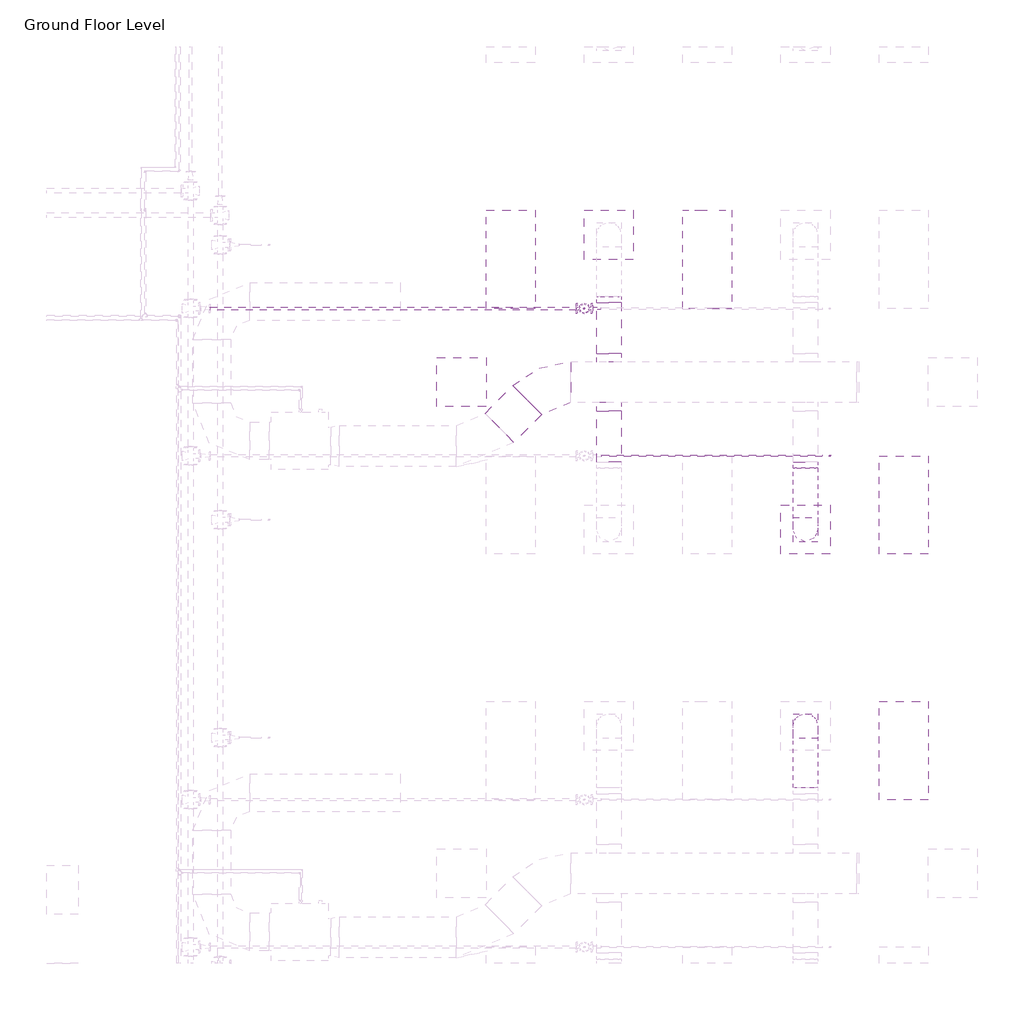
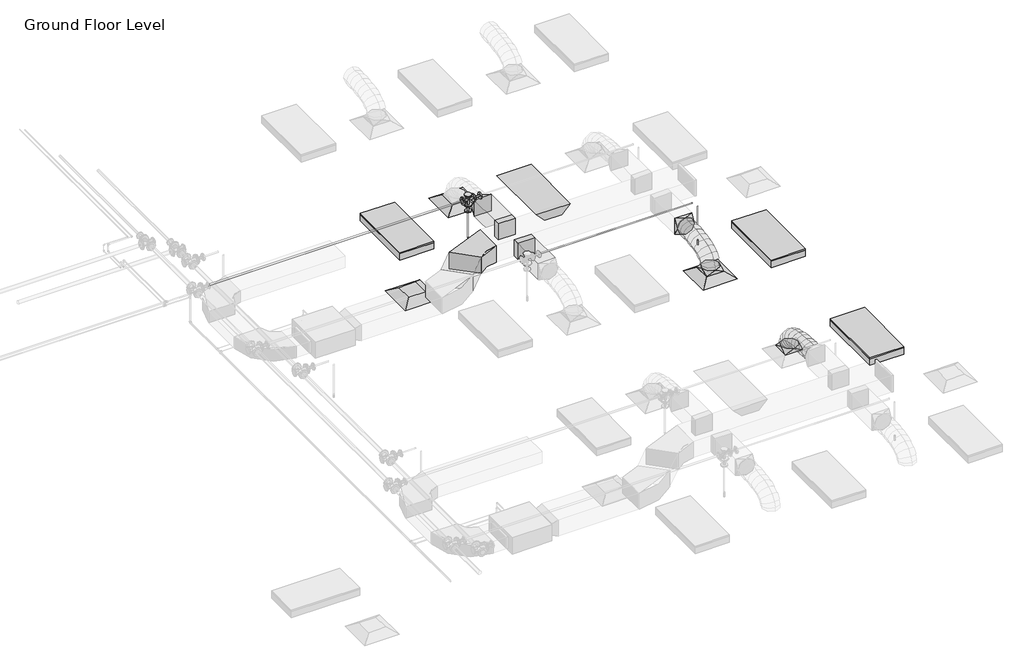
# One storey, part 68 of 72: 7 duct fittings, 5 duct segments, 4 light fixtures, 4 pipe segments, 3 air terminals, 3 pipe fittings, 2 fire suppression terminals.
"""IFC4 building model written with IfcOpenShell, lengths in millimetres."""

from ifc_helpers import new_model, si_unit, point, frame, frame_2d, origin, place, context, project, spatial, polyline, circle_curve, ellipse_curve, trimmed, segment, composite_curve, outline, extrude, transform, mapped, element, save
from ifc_brep_helpers import plane_surface, cylinder_surface, advanced_brep
from components import m_return_diffuser_600_x_600_face_300_x_300_connection_ff221211, m_rectangular_elbow_radius_1_5_w_acc56c25, m_rectangular_takeoff_standard_cb0ccb98, m_rectangular_takeoff_standard_2be5eba1, m_rectangular_to_round_transition_angle_45_degree_641efff0, m_sprinkler_dry_pendent_hosted_15_mm_dry_pendent_9bda8e11, m_emergency_recessed_lighting_fixture_600x1200_277_5b10b25d, m_troffer_light_parabolic_rectangular1_0600x1200mm_4_lamp_86473d4a, m_reducer_flanged_cs_class_150_standard_ccf252ad, m_tee_round_base_flanged_cs_class_150_standard_7e5987a1

model = new_model("IFC4")

# Units and contexts
model_context = context("Model", 3, world=origin())
ifc_project = project(units=[si_unit("LENGTHUNIT", "METRE", prefix="MILLI")], contexts=[model_context])

# Site, building, storey
site = spatial("IfcSite", under=ifc_project)
building = spatial("IfcBuilding", under=site)
storey = spatial("IfcBuildingStorey", under=building, Name="Ground Floor Level", Elevation=900.0)

# Air terminals
placement = place(None, origin())
m_return_diffuser_600_x_600_face_300_x_300_connection_shape = m_return_diffuser_600_x_600_face_300_x_300_connection_ff221211(model_context)
element("IfcAirTerminal", 1, ObjectType="M_Return Diffuser : 600 x 600 Face 300 x 300 Connection", at=placement, inside=storey, context=model_context, shape_type="MappedRepresentation", body=[
    mapped(m_return_diffuser_600_x_600_face_300_x_300_connection_shape, transform((8942.7672395, 12735.2153534, 3650.0), x_axis=(1.0, 0.0, 0.0), y_axis=(0.0, 1.0, 0.0), z_axis=(0.0, 0.0, 1.0))),
])
element("IfcAirTerminal", 2, ObjectType="M_Supply Diffuser : 600 x 600 Face 300 x 300 Connection", at=placement, inside=storey, context=model_context, shape_type="MappedRepresentation", body=[
    mapped(m_return_diffuser_600_x_600_face_300_x_300_connection_shape, transform((10742.7672395, 14535.2153534, 3650.0), x_axis=(1.0, 0.0, 0.0), y_axis=(0.0, 1.0, 0.0), z_axis=(0.0, 0.0, 1.0))),
])
element("IfcAirTerminal", 3, ObjectType="M_Supply Diffuser : 600 x 600 Face 300 x 300 Connection", at=placement, inside=storey, context=model_context, shape_type="MappedRepresentation", body=[
    mapped(m_return_diffuser_600_x_600_face_300_x_300_connection_shape, transform((13142.7672395, 10935.2153534, 3650.0), x_axis=(1.0, 0.0, 0.0), y_axis=(0.0, 1.0, 0.0), z_axis=(0.0, 0.0, 1.0))),
])

# Duct fittings
m_rectangular_elbow_radius_1_5_w_shape = m_rectangular_elbow_radius_1_5_w_acc56c25(model_context)
element("IfcDuctFitting", 4, ObjectType="M_Rectangular Elbow - Radius : 1.5 W", at=placement, inside=storey, context=model_context, shape_type="MappedRepresentation", body=[
    mapped(m_rectangular_elbow_radius_1_5_w_shape, transform((9966.7301365, 12735.2153534, 4100.0), x_axis=(-1.0, 0.0, 0.0), y_axis=(0.0, -0.9999999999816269, 6.061864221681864e-06), z_axis=(0.0, 6.061864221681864e-06, 0.9999999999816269))),
])
m_rectangular_takeoff_standard_shape = m_rectangular_takeoff_standard_cb0ccb98(model_context)
element("IfcDuctFitting", 5, ObjectType="M_Rectangular Takeoff : Standard", at=placement, inside=storey, context=model_context, shape_type="MappedRepresentation", body=[
    mapped(m_rectangular_takeoff_standard_shape, transform((10742.7672395, 12985.2153534, 4100.0), x_axis=(0.0, 1.0, 0.0), y_axis=(1.0, 0.0, 0.0), z_axis=(0.0, 0.0, -1.0))),
])
m_rectangular_takeoff_standard_2_shape = m_rectangular_takeoff_standard_2be5eba1(model_context)
element("IfcDuctFitting", 6, ObjectType="M_Rectangular Takeoff : Standard", at=placement, inside=storey, context=model_context, shape_type="MappedRepresentation", body=[
    mapped(m_rectangular_takeoff_standard_2_shape, transform((10742.7672395, 12485.2153534, 4100.0), x_axis=(0.0, -1.0, 0.0), y_axis=(-1.0, 0.0, 0.0), z_axis=(0.0, 0.0, -1.0))),
])
m_rectangular_to_round_transition_angle_45_degree_shape = m_rectangular_to_round_transition_angle_45_degree_641efff0(model_context)
element("IfcDuctFitting", 7, ObjectType="M_Rectangular to Round Transition - Angle : 45 Degree", at=placement, inside=storey, context=model_context, shape_type="MappedRepresentation", body=[
    mapped(m_rectangular_to_round_transition_angle_45_degree_shape, transform((13142.7672395, 8535.2153534, 3751.6), x_axis=(0.0, 0.0, 1.0), y_axis=(-1.0, 0.0, 0.0), z_axis=(0.0, -1.0, 0.0))),
])
element("IfcDuctFitting", 8, ObjectType="M_Rectangular to Round Transition - Angle : 45 Degree", at=placement, inside=storey, context=model_context, shape_type="MappedRepresentation", body=[
    mapped(m_rectangular_to_round_transition_angle_45_degree_shape, transform((10742.7672395, 13707.8794221, 4100.0), x_axis=(0.0, 1.0, 0.0), y_axis=(-1.0, 0.0, 0.0), z_axis=(0.0, 0.0, 1.0))),
])
element("IfcDuctFitting", 9, ObjectType="M_Rectangular to Round Transition - Angle : 45 Degree", at=placement, inside=storey, context=model_context, shape_type="MappedRepresentation", body=[
    mapped(m_rectangular_to_round_transition_angle_45_degree_shape, transform((13142.7672395, 10935.2153534, 3751.6), x_axis=(0.0, 0.0, 1.0), y_axis=(-1.0, 0.0, 0.0), z_axis=(0.0, -1.0, 0.0))),
])
element("IfcDuctFitting", 10, ObjectType="M_Rectangular to Round Transition - Angle : 45 Degree", at=placement, inside=storey, context=model_context, shape_type="MappedRepresentation", body=[
    mapped(m_rectangular_to_round_transition_angle_45_degree_shape, transform((13142.7672395, 11762.5512847, 4100.0), x_axis=(0.0, -1.0, 0.0), y_axis=(1.0, 0.0, 0.0), z_axis=(0.0, 0.0, 1.0))),
])

# Duct segments
element("IfcDuctSegment", 11, ObjectType="Flex - Round", at=placement, inside=storey, context=model_context, shape_type="AdvancedBrep", body=[
    advanced_brep(
    [(13292.7672395, 8535.2153534, 3826.6), (13142.7672395, 8385.2153534, 3826.6), (12992.7672395, 8535.2153534, 3826.6), (13142.7672395, 8685.2153534, 3826.6), (13292.7672395, 8535.2153534, 3857.9377114), (13142.7672395, 8385.2153534, 3832.2944892), (12992.7672395, 8535.2153534, 3857.9377114), (13142.7672395, 8685.2153534, 3883.5809337), (13292.7672395, 8518.1994208, 3906.2505728), (13142.7672395, 8384.4614419, 3834.435049), (12992.7672395, 8518.1994208, 3906.2505728), (13142.7672395, 8651.9373998, 3978.0660967), (13292.7672395, 8471.0155405, 3968.7113131), (13142.7672395, 8366.8096412, 3857.8020236), (12992.7672395, 8471.0155405, 3968.7113131), (13142.7672395, 8575.2214397, 4079.6206026), (13292.7672395, 8399.4595883, 4016.0700639), (13142.7672395, 8330.5255327, 3881.8163788), (12992.7672395, 8399.4595883, 4016.0700639), (13142.7672395, 8468.3936439, 4150.3237489), (13292.7672395, 8309.3274403, 4050.4146682), (13142.7672395, 8265.7666771, 3906.4925606), (12992.7672395, 8309.3274403, 4050.4146682), (13142.7672395, 8352.8882035, 4194.3367758), (13292.7672395, 8206.4149725, 4073.8329691), (13142.7672395, 8179.8540485, 3926.0424542), (12992.7672395, 8206.4149725, 4073.8329691), (13142.7672395, 8232.9758965, 4221.6234841), (13292.7672395, 8096.5180607, 4088.4128097), (13142.7672395, 8081.3671584, 3939.1085462), (12992.7672395, 8096.5180607, 4088.4128097), (13142.7672395, 8111.6689631, 4237.7170733), (13292.7672395, 7985.4325811, 4096.242033), (13142.7672395, 7977.9272529, 3946.398915), (12992.7672395, 7985.4325811, 4096.242033), (13142.7672395, 7992.9379093, 4246.085151), (13292.7672395, 7878.9544096, 4099.4084821), (13142.7672395, 7876.2629165, 3949.4222102), (12992.7672395, 7878.9544096, 4099.4084821), (13142.7672395, 7881.6459027, 4249.394754), (13292.7672395, 7782.8794221, 4100.0), (13142.7672395, 7783.8029299, 4249.9971571), (12992.7672395, 7782.8794221, 4100.0), (13142.7672395, 7781.9559143, 3950.0028429)],
    [
        (0, 1, circle_curve(frame((13142.7672395, 8535.2153534, 3826.6), z_axis=(0.0, 0.0, -1.0), x_axis=(1.0, 0.0, 0.0)), 150.0)),
        (1, 2, circle_curve(frame((13142.7672395, 8535.2153534, 3826.6), z_axis=(0.0, 0.0, -1.0), x_axis=(1.0, 0.0, 0.0)), 150.0)),
        (2, 3, circle_curve(frame((13142.7672395, 8535.2153534, 3826.6), z_axis=(0.0, 0.0, -1.0), x_axis=(1.0, 0.0, 0.0)), 150.0)),
        (3, 0, circle_curve(frame((13142.7672395, 8535.2153534, 3826.6), z_axis=(0.0, 0.0, -1.0), x_axis=(1.0, 0.0, 0.0)), 150.0)),
        (0, 4),
        (4, 5, ellipse_curve(frame((13142.7672395, 8535.2153534, 3857.9377114), z_axis=(0.0, 0.16851014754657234, -0.9856999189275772), x_axis=(0.0, -0.9856999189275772, -0.1685101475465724)), 152.176131, 150.0)),
        (5, 1),
        (5, 6, ellipse_curve(frame((13142.7672395, 8535.2153534, 3857.9377114), z_axis=(0.0, 0.16851014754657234, -0.9856999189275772), x_axis=(0.0, -0.9856999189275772, -0.1685101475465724)), 152.176131, 150.0)),
        (6, 2),
        (6, 7, ellipse_curve(frame((13142.7672395, 8535.2153534, 3857.9377114), z_axis=(0.0, 0.16851014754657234, -0.9856999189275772), x_axis=(0.0, -0.9856999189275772, -0.1685101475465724)), 152.176131, 150.0)),
        (7, 3),
        (7, 4, ellipse_curve(frame((13142.7672395, 8535.2153534, 3857.9377114), z_axis=(0.0, 0.16851014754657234, -0.9856999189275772), x_axis=(0.0, -0.9856999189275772, -0.1685101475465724)), 152.176131, 150.0)),
        (4, 8),
        (8, 9, ellipse_curve(frame((13142.7672395, 8518.1994208, 3906.2505728), z_axis=(0.0, 0.4730922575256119, -0.8810128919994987), x_axis=(0.0, -0.8810128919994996, -0.47309225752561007)), 151.8002519, 150.0)),
        (9, 5),
        (9, 10, ellipse_curve(frame((13142.7672395, 8518.1994208, 3906.2505728), z_axis=(0.0, 0.4730922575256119, -0.8810128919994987), x_axis=(0.0, -0.8810128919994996, -0.47309225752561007)), 151.8002519, 150.0)),
        (10, 6),
        (10, 11, ellipse_curve(frame((13142.7672395, 8518.1994208, 3906.2505728), z_axis=(0.0, 0.4730922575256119, -0.8810128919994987), x_axis=(0.0, -0.8810128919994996, -0.47309225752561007)), 151.8002519, 150.0)),
        (11, 7),
        (11, 8, ellipse_curve(frame((13142.7672395, 8518.1994208, 3906.2505728), z_axis=(0.0, 0.4730922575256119, -0.8810128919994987), x_axis=(0.0, -0.8810128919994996, -0.47309225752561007)), 151.8002519, 150.0)),
        (8, 12),
        (12, 13, ellipse_curve(frame((13142.7672395, 8471.0155405, 3968.7113131), z_axis=(0.0, 0.7287877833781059, -0.6847396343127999), x_axis=(0.0, -0.6847396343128, -0.7287877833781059)), 152.1832446, 150.0)),
        (13, 9),
        (13, 14, ellipse_curve(frame((13142.7672395, 8471.0155405, 3968.7113131), z_axis=(0.0, 0.7287877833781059, -0.6847396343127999), x_axis=(0.0, -0.6847396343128, -0.7287877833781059)), 152.1832446, 150.0)),
        (14, 10),
        (14, 15, ellipse_curve(frame((13142.7672395, 8471.0155405, 3968.7113131), z_axis=(0.0, 0.7287877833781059, -0.6847396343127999), x_axis=(0.0, -0.6847396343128, -0.7287877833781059)), 152.1832446, 150.0)),
        (15, 11),
        (15, 12, ellipse_curve(frame((13142.7672395, 8471.0155405, 3968.7113131), z_axis=(0.0, 0.7287877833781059, -0.6847396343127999), x_axis=(0.0, -0.6847396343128, -0.7287877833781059)), 152.1832446, 150.0)),
        (12, 16),
        (16, 17, ellipse_curve(frame((13142.7672395, 8399.4595883, 4016.0700639), z_axis=(0.0, 0.8895859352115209, -0.4567678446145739), x_axis=(0.0, -0.4567678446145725, -0.8895859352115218)), 150.91705, 150.0)),
        (17, 13),
        (17, 18, ellipse_curve(frame((13142.7672395, 8399.4595883, 4016.0700639), z_axis=(0.0, 0.8895859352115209, -0.4567678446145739), x_axis=(0.0, -0.4567678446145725, -0.8895859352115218)), 150.91705, 150.0)),
        (18, 14),
        (18, 19, ellipse_curve(frame((13142.7672395, 8399.4595883, 4016.0700639), z_axis=(0.0, 0.8895859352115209, -0.4567678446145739), x_axis=(0.0, -0.4567678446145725, -0.8895859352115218)), 150.91705, 150.0)),
        (19, 15),
        (19, 16, ellipse_curve(frame((13142.7672395, 8399.4595883, 4016.0700639), z_axis=(0.0, 0.8895859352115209, -0.4567678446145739), x_axis=(0.0, -0.4567678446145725, -0.8895859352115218)), 150.91705, 150.0)),
        (16, 20),
        (20, 21, ellipse_curve(frame((13142.7672395, 8309.3274403, 4050.4146682), z_axis=(0.0, 0.9571203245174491, -0.28969067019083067), x_axis=(0.0, -0.28969067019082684, -0.9571203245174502)), 150.369921, 150.0)),
        (21, 17),
        (21, 22, ellipse_curve(frame((13142.7672395, 8309.3274403, 4050.4146682), z_axis=(0.0, 0.9571203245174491, -0.28969067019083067), x_axis=(0.0, -0.28969067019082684, -0.9571203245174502)), 150.369921, 150.0)),
        (22, 18),
        (22, 23, ellipse_curve(frame((13142.7672395, 8309.3274403, 4050.4146682), z_axis=(0.0, 0.9571203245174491, -0.28969067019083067), x_axis=(0.0, -0.28969067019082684, -0.9571203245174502)), 150.369921, 150.0)),
        (23, 19),
        (23, 20, ellipse_curve(frame((13142.7672395, 8309.3274403, 4050.4146682), z_axis=(0.0, 0.9571203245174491, -0.28969067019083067), x_axis=(0.0, -0.28969067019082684, -0.9571203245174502)), 150.369921, 150.0)),
        (20, 24),
        (24, 25, ellipse_curve(frame((13142.7672395, 8206.4149725, 4073.8329691), z_axis=(0.0, 0.9842313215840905, -0.17688613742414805), x_axis=(0.0, -0.17688613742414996, -0.9842313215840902)), 150.1583131, 150.0)),
        (25, 21),
        (25, 26, ellipse_curve(frame((13142.7672395, 8206.4149725, 4073.8329691), z_axis=(0.0, 0.9842313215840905, -0.17688613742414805), x_axis=(0.0, -0.17688613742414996, -0.9842313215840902)), 150.1583131, 150.0)),
        (26, 22),
        (26, 27, ellipse_curve(frame((13142.7672395, 8206.4149725, 4073.8329691), z_axis=(0.0, 0.9842313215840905, -0.17688613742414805), x_axis=(0.0, -0.17688613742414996, -0.9842313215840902)), 150.1583131, 150.0)),
        (27, 23),
        (27, 24, ellipse_curve(frame((13142.7672395, 8206.4149725, 4073.8329691), z_axis=(0.0, 0.9842313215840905, -0.17688613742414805), x_axis=(0.0, -0.17688613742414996, -0.9842313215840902)), 150.1583131, 150.0)),
        (24, 28),
        (28, 29, ellipse_curve(frame((13142.7672395, 8096.5180607, 4088.4128097), z_axis=(0.0, 0.9948906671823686, -0.10095821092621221), x_axis=(0.0, -0.10095821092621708, -0.9948906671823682)), 150.0710264, 150.0)),
        (29, 25),
        (29, 30, ellipse_curve(frame((13142.7672395, 8096.5180607, 4088.4128097), z_axis=(0.0, 0.9948906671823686, -0.10095821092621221), x_axis=(0.0, -0.10095821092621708, -0.9948906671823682)), 150.0710264, 150.0)),
        (30, 26),
        (30, 31, ellipse_curve(frame((13142.7672395, 8096.5180607, 4088.4128097), z_axis=(0.0, 0.9948906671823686, -0.10095821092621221), x_axis=(0.0, -0.10095821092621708, -0.9948906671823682)), 150.0710264, 150.0)),
        (31, 27),
        (31, 28, ellipse_curve(frame((13142.7672395, 8096.5180607, 4088.4128097), z_axis=(0.0, 0.9948906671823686, -0.10095821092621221), x_axis=(0.0, -0.10095821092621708, -0.9948906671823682)), 150.0710264, 150.0)),
        (28, 32),
        (32, 33, ellipse_curve(frame((13142.7672395, 7985.4325811, 4096.242033), z_axis=(0.0, 0.9987479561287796, -0.05002519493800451), x_axis=(0.0, -0.050025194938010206, -0.9987479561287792)), 150.0309634, 150.0)),
        (33, 29),
        (33, 34, ellipse_curve(frame((13142.7672395, 7985.4325811, 4096.242033), z_axis=(0.0, 0.9987479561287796, -0.05002519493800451), x_axis=(0.0, -0.050025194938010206, -0.9987479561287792)), 150.0309634, 150.0)),
        (34, 30),
        (34, 35, ellipse_curve(frame((13142.7672395, 7985.4325811, 4096.242033), z_axis=(0.0, 0.9987479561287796, -0.05002519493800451), x_axis=(0.0, -0.050025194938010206, -0.9987479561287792)), 150.0309634, 150.0)),
        (35, 31),
        (35, 32, ellipse_curve(frame((13142.7672395, 7985.4325811, 4096.242033), z_axis=(0.0, 0.9987479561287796, -0.05002519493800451), x_axis=(0.0, -0.050025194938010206, -0.9987479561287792)), 150.0309634, 150.0)),
        (32, 36),
        (36, 37, ellipse_curve(frame((13142.7672395, 7878.9544096, 4099.4084821), z_axis=(0.0, 0.9998390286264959, -0.017942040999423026), x_axis=(0.0, -0.01794204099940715, -0.9998390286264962)), 150.0104193, 150.0)),
        (37, 33),
        (37, 38, ellipse_curve(frame((13142.7672395, 7878.9544096, 4099.4084821), z_axis=(0.0, 0.9998390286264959, -0.017942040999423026), x_axis=(0.0, -0.01794204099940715, -0.9998390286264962)), 150.0104193, 150.0)),
        (38, 34),
        (38, 39, ellipse_curve(frame((13142.7672395, 7878.9544096, 4099.4084821), z_axis=(0.0, 0.9998390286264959, -0.017942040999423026), x_axis=(0.0, -0.01794204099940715, -0.9998390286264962)), 150.0104193, 150.0)),
        (39, 35),
        (39, 36, ellipse_curve(frame((13142.7672395, 7878.9544096, 4099.4084821), z_axis=(0.0, 0.9998390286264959, -0.017942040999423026), x_axis=(0.0, -0.01794204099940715, -0.9998390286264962)), 150.0104193, 150.0)),
        (40, 41, circle_curve(frame((13142.7672395, 7782.8794221, 4100.0), z_axis=(0.0, -0.9999810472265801, 0.006156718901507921), x_axis=(1.0, 0.0, 0.0)), 150.0)),
        (41, 42, circle_curve(frame((13142.7672395, 7782.8794221, 4100.0), z_axis=(0.0, -0.9999810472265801, 0.006156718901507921), x_axis=(1.0, 0.0, 0.0)), 150.0)),
        (42, 43, circle_curve(frame((13142.7672395, 7782.8794221, 4100.0), z_axis=(0.0, -0.9999810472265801, 0.006156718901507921), x_axis=(1.0, 0.0, 0.0)), 150.0)),
        (43, 40, circle_curve(frame((13142.7672395, 7782.8794221, 4100.0), z_axis=(0.0, -0.9999810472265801, 0.006156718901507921), x_axis=(1.0, 0.0, 0.0)), 150.0)),
        (36, 40),
        (43, 37),
        (42, 38),
        (41, 39),
    ],
    [
        plane_surface(frame((13142.7672395, 8385.2153534, 3826.6), z_axis=(0.0, 0.0, -1.0), x_axis=(1.0, 0.0, 0.0))),
        cylinder_surface(frame((13142.7672395, 8535.2153534, 3826.6), z_axis=(0.0, 0.0, -1.0), x_axis=(1.0, 0.0, 0.0)), 150.0),
        cylinder_surface(frame((13142.7672395, 8535.2153534, 3857.9377114), z_axis=(0.0, 0.3322008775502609, -0.9432086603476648), x_axis=(1.0, 0.0, 0.0)), 150.0),
        cylinder_surface(frame((13142.7672395, 8518.1994208, 3906.2505728), z_axis=(0.0, 0.6027625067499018, -0.7979206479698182), x_axis=(1.0, 0.0, 0.0)), 150.0),
        cylinder_surface(frame((13142.7672395, 8471.0155405, 3968.7113131), z_axis=(0.0, 0.8339024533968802, -0.5519118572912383), x_axis=(1.0, 0.0, 0.0)), 150.0),
        cylinder_surface(frame((13142.7672395, 8399.4595883, 4016.0700639), z_axis=(0.0, 0.934458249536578, -0.35607271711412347), x_axis=(1.0, 0.0, 0.0)), 150.0),
        cylinder_surface(frame((13142.7672395, 8309.3274403, 4050.4146682), z_axis=(0.0, 0.9750732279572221, -0.22188330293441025), x_axis=(1.0, 0.0, 0.0)), 150.0),
        cylinder_surface(frame((13142.7672395, 8206.4149725, 4073.8329691), z_axis=(0.0, 0.9913140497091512, -0.1315159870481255), x_axis=(1.0, 0.0, 0.0)), 150.0),
        cylinder_surface(frame((13142.7672395, 8096.5180607, 4088.4128097), z_axis=(0.0, 0.9975255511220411, -0.07030487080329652), x_axis=(1.0, 0.0, 0.0)), 150.0),
        cylinder_surface(frame((13142.7672395, 7985.4325811, 4096.242033), z_axis=(0.0, 0.9995581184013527, -0.02972487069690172), x_axis=(1.0, 0.0, 0.0)), 150.0),
        plane_surface(frame((13142.7672395, 7781.9559143, 3950.0028429), z_axis=(0.0, -0.9999810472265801, 0.006156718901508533), x_axis=(1.0, 0.0, 0.0))),
        cylinder_surface(frame((13142.7672395, 7878.9544096, 4099.4084821), z_axis=(0.0, 0.9999810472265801, -0.006156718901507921), x_axis=(1.0, 0.0, 0.0)), 150.0),
    ],
    [
        (0, [[1, 2, 3, 4]]),
        (1, [[-1, 5, 6, 7]]),
        (1, [[-2, -7, 8, 9]]),
        (1, [[-3, -9, 10, 11]]),
        (1, [[-4, -11, 12, -5]]),
        (2, [[-6, 13, 14, 15]]),
        (2, [[-8, -15, 16, 17]]),
        (2, [[-10, -17, 18, 19]]),
        (2, [[-12, -19, 20, -13]]),
        (3, [[-14, 21, 22, 23]]),
        (3, [[-16, -23, 24, 25]]),
        (3, [[-18, -25, 26, 27]]),
        (3, [[-20, -27, 28, -21]]),
        (4, [[-22, 29, 30, 31]]),
        (4, [[-24, -31, 32, 33]]),
        (4, [[-26, -33, 34, 35]]),
        (4, [[-28, -35, 36, -29]]),
        (5, [[-30, 37, 38, 39]]),
        (5, [[-32, -39, 40, 41]]),
        (5, [[-34, -41, 42, 43]]),
        (5, [[-36, -43, 44, -37]]),
        (6, [[-38, 45, 46, 47]]),
        (6, [[-40, -47, 48, 49]]),
        (6, [[-42, -49, 50, 51]]),
        (6, [[-44, -51, 52, -45]]),
        (7, [[-46, 53, 54, 55]]),
        (7, [[-48, -55, 56, 57]]),
        (7, [[-50, -57, 58, 59]]),
        (7, [[-52, -59, 60, -53]]),
        (8, [[-54, 61, 62, 63]]),
        (8, [[-56, -63, 64, 65]]),
        (8, [[-58, -65, 66, 67]]),
        (8, [[-60, -67, 68, -61]]),
        (9, [[-62, 69, 70, 71]]),
        (9, [[-64, -71, 72, 73]]),
        (9, [[-66, -73, 74, 75]]),
        (9, [[-68, -75, 76, -69]]),
        (10, [[77, 78, 79, 80]]),
        (11, [[-70, 81, -80, 82]]),
        (11, [[-72, -82, -79, 83]]),
        (11, [[-74, -83, -78, 84]]),
        (11, [[-76, -84, -77, -81]]),
    ],
),
])
element("IfcDuctSegment", 12, ObjectType="Flex - Round", at=placement, inside=storey, context=model_context, shape_type="AdvancedBrep", body=[
    advanced_brep(
    [(13292.7672395, 10935.2153534, 3826.6), (13142.7672395, 10785.2153534, 3826.6), (12992.7672395, 10935.2153534, 3826.6), (13142.7672395, 11085.2153534, 3826.6), (13292.7672395, 10935.2153534, 3857.9377114), (13142.7672395, 10785.2153534, 3883.5809337), (12992.7672395, 10935.2153534, 3857.9377114), (13142.7672395, 11085.2153534, 3832.2944892), (13292.7672395, 10952.2312859, 3906.2505728), (13142.7672395, 10818.493307, 3978.0660967), (12992.7672395, 10952.2312859, 3906.2505728), (13142.7672395, 11085.9692649, 3834.435049), (13292.7672395, 10999.4151663, 3968.7113131), (13142.7672395, 10895.209267, 4079.6206026), (12992.7672395, 10999.4151663, 3968.7113131), (13142.7672395, 11103.6210655, 3857.8020236), (13292.7672395, 11070.9711184, 4016.0700639), (13142.7672395, 11002.0370628, 4150.3237489), (12992.7672395, 11070.9711184, 4016.0700639), (13142.7672395, 11139.9051741, 3881.8163788), (13292.7672395, 11161.1032664, 4050.4146682), (13142.7672395, 11117.5425033, 4194.3367758), (12992.7672395, 11161.1032664, 4050.4146682), (13142.7672395, 11204.6640296, 3906.4925606), (13292.7672395, 11264.0157343, 4073.8329691), (13142.7672395, 11237.4548103, 4221.6234841), (12992.7672395, 11264.0157343, 4073.8329691), (13142.7672395, 11290.5766583, 3926.0424542), (13292.7672395, 11373.912646, 4088.4128097), (13142.7672395, 11358.7617437, 4237.7170733), (12992.7672395, 11373.912646, 4088.4128097), (13142.7672395, 11389.0635483, 3939.1085462), (13292.7672395, 11484.9981256, 4096.242033), (13142.7672395, 11477.4927975, 4246.085151), (12992.7672395, 11484.9981256, 4096.242033), (13142.7672395, 11492.5034538, 3946.398915), (13292.7672395, 11591.4762972, 4099.4084821), (13142.7672395, 11588.7848041, 4249.394754), (12992.7672395, 11591.4762972, 4099.4084821), (13142.7672395, 11594.1677903, 3949.4222102), (13292.7672395, 11687.5512847, 4100.0), (13142.7672395, 11688.4747925, 3950.0028429), (12992.7672395, 11687.5512847, 4100.0), (13142.7672395, 11686.6277768, 4249.9971571)],
    [
        (0, 1, circle_curve(frame((13142.7672395, 10935.2153534, 3826.6), z_axis=(0.0, 0.0, -1.0), x_axis=(1.0, 0.0, 0.0)), 150.0)),
        (1, 2, circle_curve(frame((13142.7672395, 10935.2153534, 3826.6), z_axis=(0.0, 0.0, -1.0), x_axis=(1.0, 0.0, 0.0)), 150.0)),
        (2, 3, circle_curve(frame((13142.7672395, 10935.2153534, 3826.6), z_axis=(0.0, 0.0, -1.0), x_axis=(1.0, 0.0, 0.0)), 150.0)),
        (3, 0, circle_curve(frame((13142.7672395, 10935.2153534, 3826.6), z_axis=(0.0, 0.0, -1.0), x_axis=(1.0, 0.0, 0.0)), 150.0)),
        (0, 4),
        (4, 5, ellipse_curve(frame((13142.7672395, 10935.2153534, 3857.9377114), z_axis=(0.0, -0.16851014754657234, -0.9856999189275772), x_axis=(0.0, 0.9856999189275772, -0.1685101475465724)), 152.176131, 150.0)),
        (5, 1),
        (5, 6, ellipse_curve(frame((13142.7672395, 10935.2153534, 3857.9377114), z_axis=(0.0, -0.16851014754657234, -0.9856999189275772), x_axis=(0.0, 0.9856999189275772, -0.1685101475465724)), 152.176131, 150.0)),
        (6, 2),
        (6, 7, ellipse_curve(frame((13142.7672395, 10935.2153534, 3857.9377114), z_axis=(0.0, -0.16851014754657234, -0.9856999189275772), x_axis=(0.0, 0.9856999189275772, -0.1685101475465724)), 152.176131, 150.0)),
        (7, 3),
        (7, 4, ellipse_curve(frame((13142.7672395, 10935.2153534, 3857.9377114), z_axis=(0.0, -0.16851014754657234, -0.9856999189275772), x_axis=(0.0, 0.9856999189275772, -0.1685101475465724)), 152.176131, 150.0)),
        (4, 8),
        (8, 9, ellipse_curve(frame((13142.7672395, 10952.2312859, 3906.2505728), z_axis=(0.0, -0.47309225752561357, -0.8810128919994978), x_axis=(0.0, 0.8810128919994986, -0.47309225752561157)), 151.8002519, 150.0)),
        (9, 5),
        (9, 10, ellipse_curve(frame((13142.7672395, 10952.2312859, 3906.2505728), z_axis=(0.0, -0.47309225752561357, -0.8810128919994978), x_axis=(0.0, 0.8810128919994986, -0.47309225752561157)), 151.8002519, 150.0)),
        (10, 6),
        (10, 11, ellipse_curve(frame((13142.7672395, 10952.2312859, 3906.2505728), z_axis=(0.0, -0.47309225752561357, -0.8810128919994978), x_axis=(0.0, 0.8810128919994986, -0.47309225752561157)), 151.8002519, 150.0)),
        (11, 7),
        (11, 8, ellipse_curve(frame((13142.7672395, 10952.2312859, 3906.2505728), z_axis=(0.0, -0.47309225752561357, -0.8810128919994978), x_axis=(0.0, 0.8810128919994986, -0.47309225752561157)), 151.8002519, 150.0)),
        (8, 12),
        (12, 13, ellipse_curve(frame((13142.7672395, 10999.4151663, 3968.7113131), z_axis=(0.0, -0.7287877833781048, -0.6847396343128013), x_axis=(0.0, 0.6847396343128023, -0.7287877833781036)), 152.1832446, 150.0)),
        (13, 9),
        (13, 14, ellipse_curve(frame((13142.7672395, 10999.4151663, 3968.7113131), z_axis=(0.0, -0.7287877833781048, -0.6847396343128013), x_axis=(0.0, 0.6847396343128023, -0.7287877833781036)), 152.1832446, 150.0)),
        (14, 10),
        (14, 15, ellipse_curve(frame((13142.7672395, 10999.4151663, 3968.7113131), z_axis=(0.0, -0.7287877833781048, -0.6847396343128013), x_axis=(0.0, 0.6847396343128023, -0.7287877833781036)), 152.1832446, 150.0)),
        (15, 11),
        (15, 12, ellipse_curve(frame((13142.7672395, 10999.4151663, 3968.7113131), z_axis=(0.0, -0.7287877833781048, -0.6847396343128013), x_axis=(0.0, 0.6847396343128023, -0.7287877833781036)), 152.1832446, 150.0)),
        (12, 16),
        (16, 17, ellipse_curve(frame((13142.7672395, 11070.9711184, 4016.0700639), z_axis=(0.0, -0.8895859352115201, -0.45676784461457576), x_axis=(0.0, 0.45676784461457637, -0.8895859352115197)), 150.91705, 150.0)),
        (17, 13),
        (17, 18, ellipse_curve(frame((13142.7672395, 11070.9711184, 4016.0700639), z_axis=(0.0, -0.8895859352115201, -0.45676784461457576), x_axis=(0.0, 0.45676784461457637, -0.8895859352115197)), 150.91705, 150.0)),
        (18, 14),
        (18, 19, ellipse_curve(frame((13142.7672395, 11070.9711184, 4016.0700639), z_axis=(0.0, -0.8895859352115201, -0.45676784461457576), x_axis=(0.0, 0.45676784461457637, -0.8895859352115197)), 150.91705, 150.0)),
        (19, 15),
        (19, 16, ellipse_curve(frame((13142.7672395, 11070.9711184, 4016.0700639), z_axis=(0.0, -0.8895859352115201, -0.45676784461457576), x_axis=(0.0, 0.45676784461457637, -0.8895859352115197)), 150.91705, 150.0)),
        (16, 20),
        (20, 21, ellipse_curve(frame((13142.7672395, 11161.1032664, 4050.4146682), z_axis=(0.0, -0.9571203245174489, -0.2896906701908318), x_axis=(0.0, 0.28969067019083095, -0.9571203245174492)), 150.369921, 150.0)),
        (21, 17),
        (21, 22, ellipse_curve(frame((13142.7672395, 11161.1032664, 4050.4146682), z_axis=(0.0, -0.9571203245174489, -0.2896906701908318), x_axis=(0.0, 0.28969067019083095, -0.9571203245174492)), 150.369921, 150.0)),
        (22, 18),
        (22, 23, ellipse_curve(frame((13142.7672395, 11161.1032664, 4050.4146682), z_axis=(0.0, -0.9571203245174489, -0.2896906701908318), x_axis=(0.0, 0.28969067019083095, -0.9571203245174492)), 150.369921, 150.0)),
        (23, 19),
        (23, 20, ellipse_curve(frame((13142.7672395, 11161.1032664, 4050.4146682), z_axis=(0.0, -0.9571203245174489, -0.2896906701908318), x_axis=(0.0, 0.28969067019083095, -0.9571203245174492)), 150.369921, 150.0)),
        (20, 24),
        (24, 25, ellipse_curve(frame((13142.7672395, 11264.0157343, 4073.8329691), z_axis=(0.0, -0.9842313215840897, -0.17688613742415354), x_axis=(0.0, 0.1768861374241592, -0.9842313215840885)), 150.1583131, 150.0)),
        (25, 21),
        (25, 26, ellipse_curve(frame((13142.7672395, 11264.0157343, 4073.8329691), z_axis=(0.0, -0.9842313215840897, -0.17688613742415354), x_axis=(0.0, 0.1768861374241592, -0.9842313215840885)), 150.1583131, 150.0)),
        (26, 22),
        (26, 27, ellipse_curve(frame((13142.7672395, 11264.0157343, 4073.8329691), z_axis=(0.0, -0.9842313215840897, -0.17688613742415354), x_axis=(0.0, 0.1768861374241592, -0.9842313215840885)), 150.1583131, 150.0)),
        (27, 23),
        (27, 24, ellipse_curve(frame((13142.7672395, 11264.0157343, 4073.8329691), z_axis=(0.0, -0.9842313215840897, -0.17688613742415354), x_axis=(0.0, 0.1768861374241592, -0.9842313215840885)), 150.1583131, 150.0)),
        (24, 28),
        (28, 29, ellipse_curve(frame((13142.7672395, 11373.912646, 4088.4128097), z_axis=(0.0, -0.9948906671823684, -0.10095821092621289), x_axis=(0.0, 0.10095821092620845, -0.9948906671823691)), 150.0710264, 150.0)),
        (29, 25),
        (29, 30, ellipse_curve(frame((13142.7672395, 11373.912646, 4088.4128097), z_axis=(0.0, -0.9948906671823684, -0.10095821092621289), x_axis=(0.0, 0.10095821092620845, -0.9948906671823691)), 150.0710264, 150.0)),
        (30, 26),
        (30, 31, ellipse_curve(frame((13142.7672395, 11373.912646, 4088.4128097), z_axis=(0.0, -0.9948906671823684, -0.10095821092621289), x_axis=(0.0, 0.10095821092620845, -0.9948906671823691)), 150.0710264, 150.0)),
        (31, 27),
        (31, 28, ellipse_curve(frame((13142.7672395, 11373.912646, 4088.4128097), z_axis=(0.0, -0.9948906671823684, -0.10095821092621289), x_axis=(0.0, 0.10095821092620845, -0.9948906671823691)), 150.0710264, 150.0)),
        (28, 32),
        (32, 33, ellipse_curve(frame((13142.7672395, 11484.9981256, 4096.242033), z_axis=(0.0, -0.9987479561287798, -0.050025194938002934), x_axis=(0.0, 0.05002519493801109, -0.9987479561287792)), 150.0309634, 150.0)),
        (33, 29),
        (33, 34, ellipse_curve(frame((13142.7672395, 11484.9981256, 4096.242033), z_axis=(0.0, -0.9987479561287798, -0.050025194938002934), x_axis=(0.0, 0.05002519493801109, -0.9987479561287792)), 150.0309634, 150.0)),
        (34, 30),
        (34, 35, ellipse_curve(frame((13142.7672395, 11484.9981256, 4096.242033), z_axis=(0.0, -0.9987479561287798, -0.050025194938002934), x_axis=(0.0, 0.05002519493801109, -0.9987479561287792)), 150.0309634, 150.0)),
        (35, 31),
        (35, 32, ellipse_curve(frame((13142.7672395, 11484.9981256, 4096.242033), z_axis=(0.0, -0.9987479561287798, -0.050025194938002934), x_axis=(0.0, 0.05002519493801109, -0.9987479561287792)), 150.0309634, 150.0)),
        (32, 36),
        (36, 37, ellipse_curve(frame((13142.7672395, 11591.4762972, 4099.4084821), z_axis=(0.0, -0.9998390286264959, -0.017942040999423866), x_axis=(0.0, 0.017942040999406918, -0.9998390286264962)), 150.0104193, 150.0)),
        (37, 33),
        (37, 38, ellipse_curve(frame((13142.7672395, 11591.4762972, 4099.4084821), z_axis=(0.0, -0.9998390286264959, -0.017942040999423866), x_axis=(0.0, 0.017942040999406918, -0.9998390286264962)), 150.0104193, 150.0)),
        (38, 34),
        (38, 39, ellipse_curve(frame((13142.7672395, 11591.4762972, 4099.4084821), z_axis=(0.0, -0.9998390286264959, -0.017942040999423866), x_axis=(0.0, 0.017942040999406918, -0.9998390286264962)), 150.0104193, 150.0)),
        (39, 35),
        (39, 36, ellipse_curve(frame((13142.7672395, 11591.4762972, 4099.4084821), z_axis=(0.0, -0.9998390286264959, -0.017942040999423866), x_axis=(0.0, 0.017942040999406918, -0.9998390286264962)), 150.0104193, 150.0)),
        (40, 41, circle_curve(frame((13142.7672395, 11687.5512847, 4100.0), z_axis=(0.0, 0.9999810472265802, 0.006156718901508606), x_axis=(1.0, 0.0, 0.0)), 150.0)),
        (41, 42, circle_curve(frame((13142.7672395, 11687.5512847, 4100.0), z_axis=(0.0, 0.9999810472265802, 0.006156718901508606), x_axis=(1.0, 0.0, 0.0)), 150.0)),
        (42, 43, circle_curve(frame((13142.7672395, 11687.5512847, 4100.0), z_axis=(0.0, 0.9999810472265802, 0.006156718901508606), x_axis=(1.0, 0.0, 0.0)), 150.0)),
        (43, 40, circle_curve(frame((13142.7672395, 11687.5512847, 4100.0), z_axis=(0.0, 0.9999810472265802, 0.006156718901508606), x_axis=(1.0, 0.0, 0.0)), 150.0)),
        (36, 40),
        (43, 37),
        (42, 38),
        (41, 39),
    ],
    [
        plane_surface(frame((13142.7672395, 10785.2153534, 3826.6), z_axis=(0.0, 0.0, -1.0), x_axis=(1.0, 0.0, 0.0))),
        cylinder_surface(frame((13142.7672395, 10935.2153534, 3826.6), z_axis=(0.0, 0.0, -1.0), x_axis=(1.0, 0.0, 0.0)), 150.0),
        cylinder_surface(frame((13142.7672395, 10935.2153534, 3857.9377114), z_axis=(0.0, -0.3322008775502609, -0.9432086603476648), x_axis=(1.0, 0.0, 0.0)), 150.0),
        cylinder_surface(frame((13142.7672395, 10952.2312859, 3906.2505728), z_axis=(0.0, -0.6027625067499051, -0.7979206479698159), x_axis=(1.0, 0.0, 0.0)), 150.0),
        cylinder_surface(frame((13142.7672395, 10999.4151663, 3968.7113131), z_axis=(0.0, -0.833902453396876, -0.5519118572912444), x_axis=(1.0, 0.0, 0.0)), 150.0),
        cylinder_surface(frame((13142.7672395, 11070.9711184, 4016.0700639), z_axis=(0.0, -0.9344582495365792, -0.35607271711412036), x_axis=(1.0, 0.0, 0.0)), 150.0),
        cylinder_surface(frame((13142.7672395, 11161.1032664, 4050.4146682), z_axis=(0.0, -0.9750732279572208, -0.22188330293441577), x_axis=(1.0, 0.0, 0.0)), 150.0),
        cylinder_surface(frame((13142.7672395, 11264.0157343, 4073.8329691), z_axis=(0.0, -0.9913140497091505, -0.131515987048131), x_axis=(1.0, 0.0, 0.0)), 150.0),
        cylinder_surface(frame((13142.7672395, 11373.912646, 4088.4128097), z_axis=(0.0, -0.9975255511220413, -0.07030487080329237), x_axis=(1.0, 0.0, 0.0)), 150.0),
        cylinder_surface(frame((13142.7672395, 11484.9981256, 4096.242033), z_axis=(0.0, -0.9995581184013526, -0.029724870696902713), x_axis=(1.0, 0.0, 0.0)), 150.0),
        plane_surface(frame((13142.7672395, 11686.6277768, 4249.9971571), z_axis=(0.0, 0.9999810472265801, 0.0061567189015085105), x_axis=(1.0, 0.0, 0.0))),
        cylinder_surface(frame((13142.7672395, 11591.4762972, 4099.4084821), z_axis=(0.0, -0.9999810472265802, -0.006156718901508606), x_axis=(1.0, 0.0, 0.0)), 150.0),
    ],
    [
        (0, [[1, 2, 3, 4]]),
        (1, [[-1, 5, 6, 7]]),
        (1, [[-2, -7, 8, 9]]),
        (1, [[-3, -9, 10, 11]]),
        (1, [[-4, -11, 12, -5]]),
        (2, [[-6, 13, 14, 15]]),
        (2, [[-8, -15, 16, 17]]),
        (2, [[-10, -17, 18, 19]]),
        (2, [[-12, -19, 20, -13]]),
        (3, [[-14, 21, 22, 23]]),
        (3, [[-16, -23, 24, 25]]),
        (3, [[-18, -25, 26, 27]]),
        (3, [[-20, -27, 28, -21]]),
        (4, [[-22, 29, 30, 31]]),
        (4, [[-24, -31, 32, 33]]),
        (4, [[-26, -33, 34, 35]]),
        (4, [[-28, -35, 36, -29]]),
        (5, [[-30, 37, 38, 39]]),
        (5, [[-32, -39, 40, 41]]),
        (5, [[-34, -41, 42, 43]]),
        (5, [[-36, -43, 44, -37]]),
        (6, [[-38, 45, 46, 47]]),
        (6, [[-40, -47, 48, 49]]),
        (6, [[-42, -49, 50, 51]]),
        (6, [[-44, -51, 52, -45]]),
        (7, [[-46, 53, 54, 55]]),
        (7, [[-48, -55, 56, 57]]),
        (7, [[-50, -57, 58, 59]]),
        (7, [[-52, -59, 60, -53]]),
        (8, [[-54, 61, 62, 63]]),
        (8, [[-56, -63, 64, 65]]),
        (8, [[-58, -65, 66, 67]]),
        (8, [[-60, -67, 68, -61]]),
        (9, [[-62, 69, 70, 71]]),
        (9, [[-64, -71, 72, 73]]),
        (9, [[-66, -73, 74, 75]]),
        (9, [[-68, -75, 76, -69]]),
        (10, [[77, 78, 79, 80]]),
        (11, [[-70, 81, -80, 82]]),
        (11, [[-72, -82, -79, 83]]),
        (11, [[-74, -83, -78, 84]]),
        (11, [[-76, -84, -77, -81]]),
    ],
),
])
element("IfcDuctSegment", 13, ObjectType="Radius Elbows / Taps", at=placement, inside=storey, context=model_context, shape_type="SweptSolid", body=[
    extrude(outline(polyline([(9584.1393452, 11999.0711715), (9230.5859546, 12352.6245621), (9570.2835271, 12692.3221346), (9923.8369177, 12338.768744), (9584.1393452, 11999.0711715)])), frame((0.0, 0.0, 3950.0033908), z_axis=(0.0, 0.0, 1.0), x_axis=(1.0, 0.0, 0.0)), (0.0, 0.0, 1.0), 300.0),
])
element("IfcDuctSegment", 14, ObjectType="Radius Elbows / Taps", at=placement, inside=storey, context=model_context, shape_type="SweptSolid", body=[
    extrude(outline(polyline([(10892.7672395, 13086.8153534), (10592.7672395, 13086.8153534), (10592.7672395, 13707.8794221), (10892.7672395, 13707.8794221), (10892.7672395, 13086.8153534)])), frame((0.0, 0.0, 3950.0), z_axis=(0.0, 0.0, 1.0), x_axis=(1.0, 0.0, 0.0)), (0.0, 0.0, 1.0), 300.0),
])
element("IfcDuctSegment", 15, ObjectType="Radius Elbows / Taps", at=placement, inside=storey, context=model_context, shape_type="SweptSolid", body=[
    extrude(outline(polyline([(10592.7672395, 12383.6153534), (10892.7672395, 12383.6153534), (10892.7672395, 11762.5512847), (10592.7672395, 11762.5512847), (10592.7672395, 12383.6153534)])), frame((0.0, 0.0, 3950.0), z_axis=(0.0, 0.0, 1.0), x_axis=(1.0, 0.0, 0.0)), (0.0, 0.0, 1.0), 300.0),
])

# Fire suppression terminals
m_sprinkler_dry_pendent_hosted_15_mm_dry_pendent_shape = m_sprinkler_dry_pendent_hosted_15_mm_dry_pendent_9bda8e11(model_context)
element("IfcFireSuppressionTerminal", 16, ObjectType="M_Sprinkler - Dry - Pendent - Hosted : 15 mm Dry Pendent", at=placement, inside=storey, context=model_context, shape_type="MappedRepresentation", body=[
    mapped(m_sprinkler_dry_pendent_hosted_15_mm_dry_pendent_shape, transform((10442.7672395, 13635.2153534, 3650.0), x_axis=(1.0, 0.0, 0.0), y_axis=(0.0, -1.0, 0.0), z_axis=(0.0, 0.0, -1.0))),
])
element("IfcFireSuppressionTerminal", 17, ObjectType="M_Sprinkler - Dry - Pendent - Hosted : 15 mm Dry Pendent", at=placement, inside=storey, context=model_context, shape_type="MappedRepresentation", body=[
    mapped(m_sprinkler_dry_pendent_hosted_15_mm_dry_pendent_shape, transform((13442.7672395, 11835.2153534, 3650.0), x_axis=(1.0, 0.0, 0.0), y_axis=(0.0, -1.0, 0.0), z_axis=(0.0, 0.0, -1.0))),
])

# Light fixtures
m_emergency_recessed_lighting_fixture_600x1200_277_shape = m_emergency_recessed_lighting_fixture_600x1200_277_5b10b25d(model_context)
element("IfcLightFixture", 18, ObjectType="M_Emergency Recessed Lighting Fixture : 600x1200 - 277", at=placement, inside=storey, context=model_context, shape_type="MappedRepresentation", body=[
    mapped(m_emergency_recessed_lighting_fixture_600x1200_277_shape, transform((11642.7672395, 13635.2153534, 3650.0), x_axis=(0.0, 1.0, 0.0), y_axis=(-1.0, 0.0, 0.0), z_axis=(0.0, 0.0, 1.0))),
])
m_troffer_light_parabolic_rectangular1_0600x1200mm_4_lamp_shape = m_troffer_light_parabolic_rectangular1_0600x1200mm_4_lamp_86473d4a(model_context)
element("IfcLightFixture", 19, ObjectType="M_Troffer Light - Parabolic Rectangular1 : 0600x1200mm(4 Lamp) - 277V 2", at=placement, inside=storey, context=model_context, shape_type="MappedRepresentation", body=[
    mapped(m_troffer_light_parabolic_rectangular1_0600x1200mm_4_lamp_shape, transform((9483.3013074, 14253.918855, 3650.0), x_axis=(0.0, 1.0, 0.0), y_axis=(-1.0, 0.0, 0.0), z_axis=(0.0, 0.0, 1.0))),
])
element("IfcLightFixture", 20, ObjectType="M_Troffer Light - Parabolic Rectangular1 : 0600x1200mm(4 Lamp) - 277V 2", at=placement, inside=storey, context=model_context, shape_type="MappedRepresentation", body=[
    mapped(m_troffer_light_parabolic_rectangular1_0600x1200mm_4_lamp_shape, transform((14283.3013074, 11253.918855, 3650.0), x_axis=(0.0, 1.0, 0.0), y_axis=(-1.0, 0.0, 0.0), z_axis=(0.0, 0.0, 1.0))),
])
element("IfcLightFixture", 21, ObjectType="M_Troffer Light - Parabolic Rectangular1 : 0600x1200mm(4 Lamp) - 277V 2", at=placement, inside=storey, context=model_context, shape_type="MappedRepresentation", body=[
    mapped(m_troffer_light_parabolic_rectangular1_0600x1200mm_4_lamp_shape, transform((14283.3013074, 8253.9188549, 3650.0), x_axis=(0.0, 1.0, 0.0), y_axis=(-1.0, 0.0, 0.0), z_axis=(0.0, 0.0, 1.0))),
])

# Pipe fittings
m_reducer_flanged_cs_class_150_standard_shape = m_reducer_flanged_cs_class_150_standard_ccf252ad(model_context)
element("IfcPipeFitting", 22, ObjectType="M_Reducer - Flanged - CS - Class 150 : Standard", at=placement, inside=storey, context=model_context, shape_type="MappedRepresentation", body=[
    mapped(m_reducer_flanged_cs_class_150_standard_shape, transform((10543.4758332, 13635.2153534, 4360.0), x_axis=(1.0, 0.0, 0.0), y_axis=(0.0, 0.0, 1.0), z_axis=(0.0, -1.0, 0.0))),
])
element("IfcPipeFitting", 23, ObjectType="M_Reducer - Flanged - CS - Class 150 : Standard", at=placement, inside=storey, context=model_context, shape_type="MappedRepresentation", body=[
    mapped(m_reducer_flanged_cs_class_150_standard_shape, transform((10442.7672395, 13635.2153534, 4259.2914062), x_axis=(0.0, 0.0, -1.0), y_axis=(-1.0, 0.0, 0.0), z_axis=(0.0, 1.0, 0.0))),
])
m_tee_round_base_flanged_cs_class_150_standard_shape = m_tee_round_base_flanged_cs_class_150_standard_7e5987a1(model_context)
element("IfcPipeFitting", 24, ObjectType="M_Tee Round Base - Flanged - CS - Class 150 : Standard", at=placement, inside=storey, context=model_context, shape_type="MappedRepresentation", body=[
    mapped(m_tee_round_base_flanged_cs_class_150_standard_shape, transform((10442.7672395, 13635.2153534, 4360.0), x_axis=(1.0, 0.0, 0.0), y_axis=(0.0, 0.0, 1.0), z_axis=(0.0, -1.0, 0.0))),
])

# Pipe segments
element("IfcPipeSegment", 25, ObjectType="Steel flanged", at=placement, inside=storey, context=model_context, shape_type="SweptSolid", body=[
    extrude(outline(composite_curve([segment(trimmed(circle_curve(frame_2d((13442.7672395, 11835.2153534)), 10.668), [point((13432.0992395, 11835.2153534))], [point((13442.7672395, 11845.8833534))], False, "CARTESIAN"), True, "CONTINUOUS"), segment(trimmed(circle_curve(frame_2d((13442.7672395, 11835.2153534)), 10.668), [point((13442.7672395, 11845.8833534))], [point((13453.4352395, 11835.2153534))], False, "CARTESIAN"), True, "CONTINUOUS"), segment(trimmed(circle_curve(frame_2d((13442.7672395, 11835.2153534)), 10.668), [point((13453.4352395, 11835.2153534))], [point((13442.7672395, 11824.5473534))], False, "CARTESIAN"), True, "CONTINUOUS"), segment(trimmed(circle_curve(frame_2d((13442.7672395, 11835.2153534)), 10.668), [point((13442.7672395, 11824.5473534))], [point((13432.0992395, 11835.2153534))], False, "CARTESIAN"), True, "CONTINUOUS")], self_intersect=False)), frame((0.0, 0.0, 3650.0), z_axis=(0.0, 0.0, 1.0), x_axis=(1.0, 0.0, 0.0)), (0.0, 0.0, 1.0), 616.9914062),
])
element("IfcPipeSegment", 26, ObjectType="Steel flanged", at=placement, inside=storey, context=model_context, shape_type="SweptSolid", body=[
    extrude(outline(composite_curve([segment(trimmed(circle_curve(frame_2d((10442.7672395, 13635.2153534)), 10.668), [point((10432.0992395, 13635.2153534))], [point((10442.7672395, 13645.8833534))], False, "CARTESIAN"), True, "CONTINUOUS"), segment(trimmed(circle_curve(frame_2d((10442.7672395, 13635.2153534)), 10.668), [point((10442.7672395, 13645.8833534))], [point((10453.4352395, 13635.2153534))], False, "CARTESIAN"), True, "CONTINUOUS"), segment(trimmed(circle_curve(frame_2d((10442.7672395, 13635.2153534)), 10.668), [point((10453.4352395, 13635.2153534))], [point((10442.7672395, 13624.5473534))], False, "CARTESIAN"), True, "CONTINUOUS"), segment(trimmed(circle_curve(frame_2d((10442.7672395, 13635.2153534)), 10.668), [point((10442.7672395, 13624.5473534))], [point((10432.0992395, 13635.2153534))], False, "CARTESIAN"), True, "CONTINUOUS")], self_intersect=False)), frame((0.0, 0.0, 3650.0), z_axis=(0.0, 0.0, 1.0), x_axis=(1.0, 0.0, 0.0)), (0.0, 0.0, 1.0), 495.2914062),
])
element("IfcPipeSegment", 27, ObjectType="Steel flanged", at=placement, inside=storey, context=model_context, shape_type="SweptSolid", body=[
    extrude(outline(composite_curve([segment(trimmed(circle_curve(frame_2d((13635.2153534, 4360.0)), 16.7005), [point((13651.9158534, 4360.0))], [point((13635.2153534, 4343.2995))], False, "CARTESIAN"), True, "CONTINUOUS"), segment(trimmed(circle_curve(frame_2d((13635.2153534, 4360.0)), 16.7005), [point((13635.2153534, 4343.2995))], [point((13618.5148534, 4360.0))], False, "CARTESIAN"), True, "CONTINUOUS"), segment(trimmed(circle_curve(frame_2d((13635.2153534, 4360.0)), 16.7005), [point((13618.5148534, 4360.0))], [point((13635.2153534, 4376.7005))], False, "CARTESIAN"), True, "CONTINUOUS"), segment(trimmed(circle_curve(frame_2d((13635.2153534, 4360.0)), 16.7005), [point((13635.2153534, 4376.7005))], [point((13651.9158534, 4360.0))], False, "CARTESIAN"), True, "CONTINUOUS")], self_intersect=False)), frame((5876.869498, 0.0, 0.0), z_axis=(1.0, 0.0, 0.0), x_axis=(0.0, 1.0, 0.0)), (0.0, 0.0, 1.0), 4465.1891477),
])
element("IfcPipeSegment", 28, ObjectType="Steel flanged", at=placement, inside=storey, context=model_context, shape_type="SweptSolid", body=[
    extrude(outline(composite_curve([segment(trimmed(circle_curve(frame_2d((11835.2153534, 4360.0)), 10.668), [point((11845.8833534, 4360.0))], [point((11835.2153534, 4349.332))], False, "CARTESIAN"), True, "CONTINUOUS"), segment(trimmed(circle_curve(frame_2d((11835.2153534, 4360.0)), 10.668), [point((11835.2153534, 4349.332))], [point((11824.5473534, 4360.0))], False, "CARTESIAN"), True, "CONTINUOUS"), segment(trimmed(circle_curve(frame_2d((11835.2153534, 4360.0)), 10.668), [point((11824.5473534, 4360.0))], [point((11835.2153534, 4370.668))], False, "CARTESIAN"), True, "CONTINUOUS"), segment(trimmed(circle_curve(frame_2d((11835.2153534, 4360.0)), 10.668), [point((11835.2153534, 4370.668))], [point((11845.8833534, 4360.0))], False, "CARTESIAN"), True, "CONTINUOUS")], self_intersect=False)), frame((10657.4758332, 0.0, 0.0), z_axis=(1.0, 0.0, 0.0), x_axis=(0.0, 1.0, 0.0)), (0.0, 0.0, 1.0), 2692.2828125),
])

save(model, "model.ifc")
